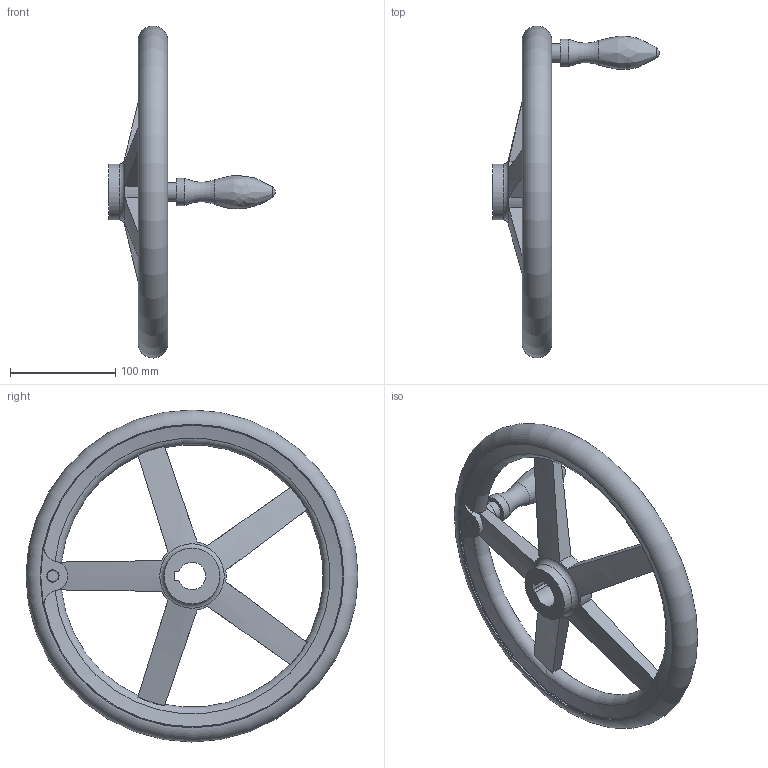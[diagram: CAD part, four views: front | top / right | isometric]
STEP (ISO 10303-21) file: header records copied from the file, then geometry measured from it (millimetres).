
FILE_DESCRIPTION( ( 'STEP AP203' ), '1' );
FILE_NAME( 'C:/Temp/Ganter_Step_05_03_2020/data/1_3/din_950/din_950_k/din_950_k_d/Handwheel DIN 950-AL-315-K26-D.stp', '2020-03-05T10:31:01', ( 'License CC BY-ND 4.0' ), ( 'CADENAS' ), ' ', 'PARTsolutions', ' ' );
FILE_SCHEMA( ( 'CONFIG_CONTROL_DESIGN' ) );
Length unit declared in the file: millimetre
Products named in the file (1): _Handwheel DIN 950-AL-315-K26-D
Bounding box: 158 x 315 x 315 mm (x, y, z)
Volume: 859237 mm3; surface area: 144415.3 mm2
Topology: 1 solids, 1 shells, 68 faces, 197 edges, 127 vertices
Faces by surface type: torus 21, cylinder 20, plane 19, cone 6, bspline 1, sphere 1
Full cylindrical faces by diameter (mm): 18 x1, 26 x1, 53 x2, 287 x2
Entity records: 2742 total; most frequent: CARTESIAN_POINT 1081, ORIENTED_EDGE 342, DIRECTION 308, EDGE_CURVE 171, AXIS2_PLACEMENT_3D 141, VERTEX_POINT 123, EDGE_LOOP 96, FACE_OUTER_BOUND 83
